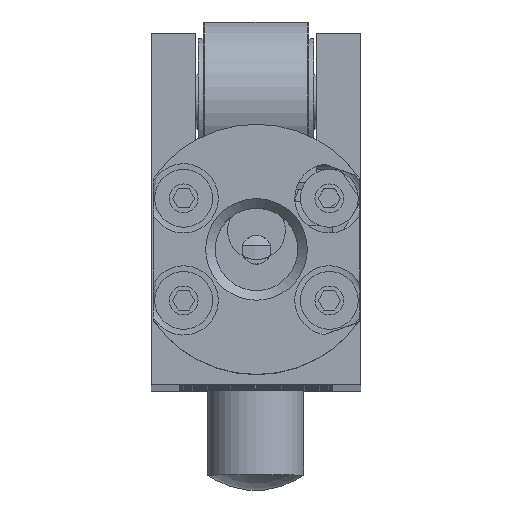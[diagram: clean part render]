
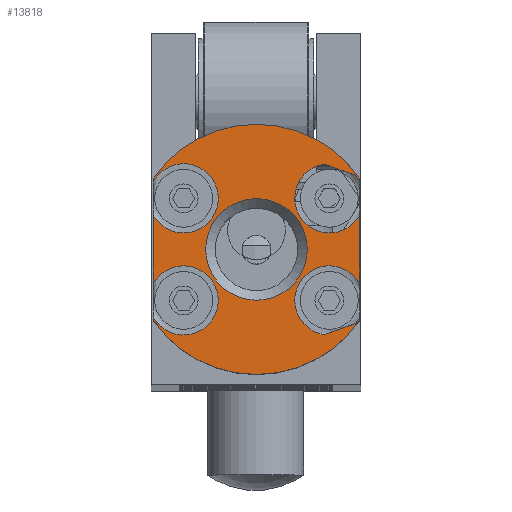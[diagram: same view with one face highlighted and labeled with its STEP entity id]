
A CAD part, top view. The second image highlights one B-rep face of the part: STEP entity #13818.
In plain terms, the highlighted planar face has unit normal (0, 0, 1).
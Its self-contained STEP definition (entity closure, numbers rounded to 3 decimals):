
#335=FACE_BOUND('',#3529,.T.);
#1039=LINE('',#25671,#1586);
#1040=LINE('',#25673,#1587);
#1041=LINE('',#25678,#1588);
#1048=LINE('',#25727,#1595);
#1051=LINE('',#25748,#1598);
#1052=LINE('',#25749,#1599);
#1053=LINE('',#25750,#1600);
#1056=LINE('',#25764,#1603);
#1586=VECTOR('',#20077,10.);
#1587=VECTOR('',#20078,10.);
#1588=VECTOR('',#20079,10.);
#1595=VECTOR('',#20118,10.);
#1598=VECTOR('',#20135,10.);
#1599=VECTOR('',#20136,10.);
#1600=VECTOR('',#20137,10.);
#1603=VECTOR('',#20154,10.);
#2669=FACE_OUTER_BOUND('',#3528,.T.);
#3528=EDGE_LOOP('',(#12110,#12111,#12112,#12113,#12114,#12115,#12116,#12117,
#12118,#12119,#12120,#12121,#12122,#12123,#12124,#12125));
#3529=EDGE_LOOP('',(#12126));
#4761=CIRCLE('',#15737,13.);
#4766=CIRCLE('',#15746,13.);
#4772=CIRCLE('',#15757,5.283);
#4775=CIRCLE('',#15762,3.6);
#4778=CIRCLE('',#15768,3.6);
#4779=CIRCLE('',#15769,3.6);
#4782=CIRCLE('',#15775,3.6);
#4783=CIRCLE('',#15777,3.6);
#4784=CIRCLE('',#15778,3.6);
#6130=VERTEX_POINT('',#25643);
#6131=VERTEX_POINT('',#25645);
#6135=VERTEX_POINT('',#25660);
#6136=VERTEX_POINT('',#25662);
#6137=VERTEX_POINT('',#25666);
#6138=VERTEX_POINT('',#25667);
#6139=VERTEX_POINT('',#25672);
#6140=VERTEX_POINT('',#25674);
#6146=VERTEX_POINT('',#25696);
#6149=VERTEX_POINT('',#25706);
#6151=VERTEX_POINT('',#25711);
#6152=VERTEX_POINT('',#25718);
#6154=VERTEX_POINT('',#25723);
#6157=VERTEX_POINT('',#25739);
#6159=VERTEX_POINT('',#25744);
#6162=VERTEX_POINT('',#25761);
#6163=VERTEX_POINT('',#25763);
#8110=EDGE_CURVE('',#6131,#6130,#4761,.T.);
#8117=EDGE_CURVE('',#6135,#6136,#4766,.T.);
#8120=EDGE_CURVE('',#6131,#6138,#1039,.T.);
#8121=EDGE_CURVE('',#6139,#6136,#1040,.T.);
#8123=EDGE_CURVE('',#6137,#6140,#1041,.T.);
#8132=EDGE_CURVE('',#6146,#6146,#4772,.T.);
#8138=EDGE_CURVE('',#6151,#6149,#4775,.T.);
#8143=EDGE_CURVE('',#6152,#6154,#1048,.T.);
#8147=EDGE_CURVE('',#6154,#6139,#4778,.T.);
#8149=EDGE_CURVE('',#6140,#6152,#4779,.T.);
#8152=EDGE_CURVE('',#6149,#6159,#1051,.T.);
#8153=EDGE_CURVE('',#6135,#6151,#1052,.T.);
#8154=EDGE_CURVE('',#6157,#6130,#1053,.T.);
#8158=EDGE_CURVE('',#6159,#6157,#4782,.T.);
#8160=EDGE_CURVE('',#6138,#6162,#4783,.T.);
#8161=EDGE_CURVE('',#6162,#6163,#1056,.T.);
#8162=EDGE_CURVE('',#6163,#6137,#4784,.T.);
#12110=ORIENTED_EDGE('',*,*,#8160,.T.);
#12111=ORIENTED_EDGE('',*,*,#8161,.T.);
#12112=ORIENTED_EDGE('',*,*,#8162,.T.);
#12113=ORIENTED_EDGE('',*,*,#8123,.T.);
#12114=ORIENTED_EDGE('',*,*,#8149,.T.);
#12115=ORIENTED_EDGE('',*,*,#8143,.T.);
#12116=ORIENTED_EDGE('',*,*,#8147,.T.);
#12117=ORIENTED_EDGE('',*,*,#8121,.T.);
#12118=ORIENTED_EDGE('',*,*,#8117,.F.);
#12119=ORIENTED_EDGE('',*,*,#8153,.T.);
#12120=ORIENTED_EDGE('',*,*,#8138,.T.);
#12121=ORIENTED_EDGE('',*,*,#8152,.T.);
#12122=ORIENTED_EDGE('',*,*,#8158,.T.);
#12123=ORIENTED_EDGE('',*,*,#8154,.T.);
#12124=ORIENTED_EDGE('',*,*,#8110,.F.);
#12125=ORIENTED_EDGE('',*,*,#8120,.T.);
#12126=ORIENTED_EDGE('',*,*,#8132,.F.);
#12473=PLANE('',#15776);
#13818=ADVANCED_FACE('',(#2669,#335),#12473,.T.);
#15737=AXIS2_PLACEMENT_3D('',#25647,#20052,#20053);
#15746=AXIS2_PLACEMENT_3D('',#25663,#20072,#20073);
#15757=AXIS2_PLACEMENT_3D('',#25697,#20101,#20102);
#15762=AXIS2_PLACEMENT_3D('',#25712,#20113,#20114);
#15768=AXIS2_PLACEMENT_3D('',#25735,#20128,#20129);
#15769=AXIS2_PLACEMENT_3D('',#25737,#20131,#20132);
#15775=AXIS2_PLACEMENT_3D('',#25758,#20147,#20148);
#15776=AXIS2_PLACEMENT_3D('',#25760,#20150,#20151);
#15777=AXIS2_PLACEMENT_3D('',#25762,#20152,#20153);
#15778=AXIS2_PLACEMENT_3D('',#25765,#20155,#20156);
#20052=DIRECTION('center_axis',(0.,0.,
-1.));
#20053=DIRECTION('ref_axis',(0.,1.,0.));
#20072=DIRECTION('center_axis',(0.,0.,
-1.));
#20073=DIRECTION('ref_axis',(0.,1.,0.));
#20077=DIRECTION('',(0.,1.,0.));
#20078=DIRECTION('',(0.,1.,0.));
#20079=DIRECTION('',(0.,1.,0.));
#20101=DIRECTION('center_axis',(0.,0.,
1.));
#20102=DIRECTION('ref_axis',(-1.,0.,0.));
#20113=DIRECTION('center_axis',(0.,0.,
-1.));
#20114=DIRECTION('ref_axis',(1.,0.,0.));
#20118=DIRECTION('',(0.94,-0.342,0.));
#20128=DIRECTION('center_axis',(0.,0.,
-1.));
#20129=DIRECTION('ref_axis',(-0.342,-0.94,0.));
#20131=DIRECTION('center_axis',(0.,0.,
-1.));
#20132=DIRECTION('ref_axis',(-0.342,-0.94,0.));
#20135=DIRECTION('',(0.,-1.,0.));
#20136=DIRECTION('',(0.,-1.,0.));
#20137=DIRECTION('',(0.,-1.,0.));
#20147=DIRECTION('center_axis',(0.,0.,
-1.));
#20148=DIRECTION('ref_axis',(1.,0.,0.));
#20150=DIRECTION('center_axis',(0.,0.,
1.));
#20151=DIRECTION('ref_axis',(1.,0.,0.));
#20152=DIRECTION('center_axis',(0.,0.,
-1.));
#20153=DIRECTION('ref_axis',(-0.342,0.94,0.));
#20154=DIRECTION('',(-0.94,-0.342,0.));
#20155=DIRECTION('center_axis',(0.,0.,
-1.));
#20156=DIRECTION('ref_axis',(-0.342,0.94,0.));
#25643=CARTESIAN_POINT('',(-10.7,-11.56,216.));
#25645=CARTESIAN_POINT('',(10.8,-11.56,216.));
#25647=CARTESIAN_POINT('Origin',(0.05,-4.25,216.));
#25660=CARTESIAN_POINT('',(-10.7,3.06,216.));
#25662=CARTESIAN_POINT('',(10.8,3.06,216.));
#25663=CARTESIAN_POINT('Origin',(0.05,-4.25,216.));
#25666=CARTESIAN_POINT('',(10.8,-7.855,216.));
#25667=CARTESIAN_POINT('',(10.8,-11.256,216.));
#25671=CARTESIAN_POINT('',(10.8,-4.655,216.));
#25672=CARTESIAN_POINT('',(10.8,2.756,216.));
#25673=CARTESIAN_POINT('',(10.8,-4.655,216.));
#25674=CARTESIAN_POINT('',(10.8,-0.645,216.));
#25678=CARTESIAN_POINT('',(10.8,-4.655,216.));
#25696=CARTESIAN_POINT('',(5.333,-4.25,216.));
#25697=CARTESIAN_POINT('Origin',(0.05,-4.25,216.));
#25706=CARTESIAN_POINT('',(-10.7,-0.645,216.));
#25711=CARTESIAN_POINT('',(-10.7,2.756,216.));
#25712=CARTESIAN_POINT('Origin',(-7.527,1.056,216.));
#25718=CARTESIAN_POINT('',(7.114,4.619,216.));
#25723=CARTESIAN_POINT('',(10.311,3.455,216.));
#25727=CARTESIAN_POINT('',(6.117,4.982,216.));
#25735=CARTESIAN_POINT('Origin',(7.627,1.056,216.));
#25737=CARTESIAN_POINT('Origin',(7.627,1.056,216.));
#25739=CARTESIAN_POINT('',(-10.7,-11.256,216.));
#25744=CARTESIAN_POINT('',(-10.7,-7.855,216.));
#25748=CARTESIAN_POINT('',(-10.7,2.655,216.));
#25749=CARTESIAN_POINT('',(-10.7,2.655,216.));
#25750=CARTESIAN_POINT('',(-10.7,2.655,216.));
#25758=CARTESIAN_POINT('Origin',(-7.527,-9.556,216.));
#25760=CARTESIAN_POINT('Origin',(0.05,2.25,216.));
#25761=CARTESIAN_POINT('',(10.311,-11.955,216.));
#25762=CARTESIAN_POINT('Origin',(7.627,-9.556,216.));
#25763=CARTESIAN_POINT('',(7.114,-13.119,216.));
#25764=CARTESIAN_POINT('',(8.206,-12.721,216.));
#25765=CARTESIAN_POINT('Origin',(7.627,-9.556,216.));
